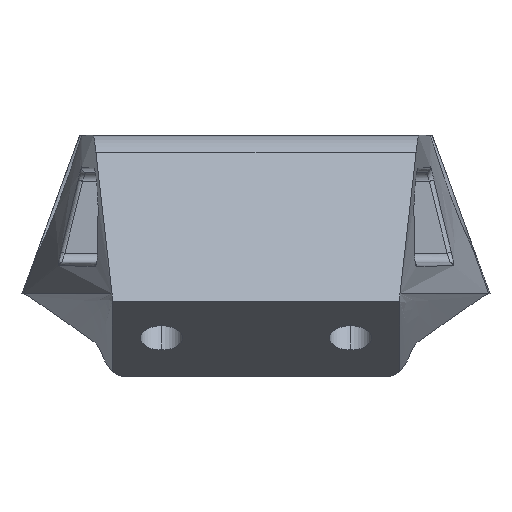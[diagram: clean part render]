
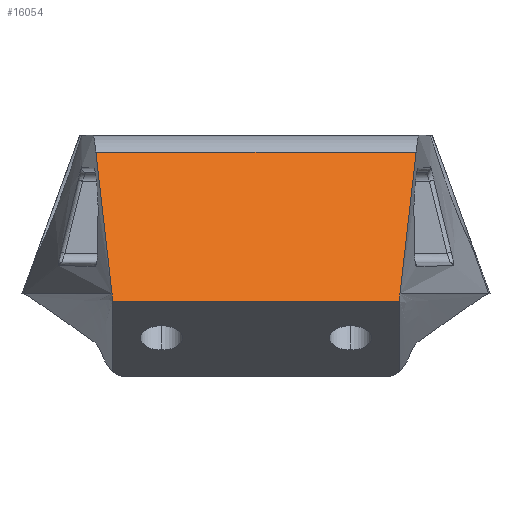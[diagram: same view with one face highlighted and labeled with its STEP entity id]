
A CAD part, front view. The second image highlights one B-rep face of the part: STEP entity #16054.
In plain terms, the highlighted planar face has unit normal (0, -0.845, 0.536).
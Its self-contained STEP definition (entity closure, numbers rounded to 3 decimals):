
#402 = CARTESIAN_POINT ( 'NONE',  ( -16., -94.621, -0.888 ) ) ;
#804 = VERTEX_POINT ( 'NONE', #3552 ) ;
#1042 = PLANE ( 'NONE',  #2711 ) ;
#1124 = CARTESIAN_POINT ( 'NONE',  ( -16., -94.621, -0.888 ) ) ;
#1223 = DIRECTION ( 'NONE',  ( 1., 0., 0. ) ) ;
#1367 = DIRECTION ( 'NONE',  ( 1., 0., 0. ) ) ;
#1891 = ORIENTED_EDGE ( 'NONE', *, *, #2204, .T. ) ;
#1961 = CARTESIAN_POINT ( 'NONE',  ( -16., -84.075, 15.742 ) ) ;
#2131 = LINE ( 'NONE', #1961, #6251 ) ;
#2142 = EDGE_CURVE ( 'NONE', #2901, #16293, #6168, .T. ) ;
#2204 = EDGE_CURVE ( 'NONE', #14626, #16293, #12143, .T. ) ;
#2518 = FACE_OUTER_BOUND ( 'NONE', #5659, .T. ) ;
#2711 = AXIS2_PLACEMENT_3D ( 'NONE', #10337, #4952, #1223 ) ;
#2901 = VERTEX_POINT ( 'NONE', #8268 ) ;
#3552 = CARTESIAN_POINT ( 'NONE',  ( 17.789, -84.075, 15.742 ) ) ;
#3730 = EDGE_CURVE ( 'NONE', #16459, #14626, #16471, .T. ) ;
#4131 = CARTESIAN_POINT ( 'NONE',  ( -16., -94.434, -0.592 ) ) ;
#4351 = CARTESIAN_POINT ( 'NONE',  ( -16., -94.058, 0. ) ) ;
#4684 = CARTESIAN_POINT ( 'NONE',  ( 17.789, -84.075, 15.742 ) ) ;
#4952 = DIRECTION ( 'NONE',  ( 0., -0.844, 0.536 ) ) ;
#5097 = CARTESIAN_POINT ( 'NONE',  ( 16., -94.434, -0.592 ) ) ;
#5659 = EDGE_LOOP ( 'NONE', ( #8166, #12514, #9893, #9601, #1891, #12325 ) ) ;
#6168 = B_SPLINE_CURVE_WITH_KNOTS ( 'NONE', 3,
 ( #14209, #9010, #5097, #6584 ),
 .UNSPECIFIED., .F., .F.,
 ( 4, 4 ),
 ( 0., 1. ),
 .UNSPECIFIED. ) ;
#6251 = VECTOR ( 'NONE', #7277, 1000. ) ;
#6575 = CARTESIAN_POINT ( 'NONE',  ( 16., -94.621, -0.888 ) ) ;
#6584 = CARTESIAN_POINT ( 'NONE',  ( 16., -94.621, -0.888 ) ) ;
#7038 = CARTESIAN_POINT ( 'NONE',  ( -16.596, -90.73, 5.247 ) ) ;
#7277 = DIRECTION ( 'NONE',  ( -1., 0., 0. ) ) ;
#7790 = VECTOR ( 'NONE', #1367, 1000. ) ;
#8166 = ORIENTED_EDGE ( 'NONE', *, *, #14840, .T. ) ;
#8268 = CARTESIAN_POINT ( 'NONE',  ( 16., -94.058, 0. ) ) ;
#9010 = CARTESIAN_POINT ( 'NONE',  ( 16., -94.246, -0.296 ) ) ;
#9429 = CARTESIAN_POINT ( 'NONE',  ( -16., -94.621, -0.888 ) ) ;
#9601 = ORIENTED_EDGE ( 'NONE', *, *, #3730, .T. ) ;
#9893 = ORIENTED_EDGE ( 'NONE', *, *, #14780, .F. ) ;
#10169 = VERTEX_POINT ( 'NONE', #14962 ) ;
#10337 = CARTESIAN_POINT ( 'NONE',  ( -16., -94.058, 0. ) ) ;
#11012 = B_SPLINE_CURVE_WITH_KNOTS ( 'NONE', 3,
 ( #11361, #16668, #16591, #4684 ),
 .UNSPECIFIED., .F., .F.,
 ( 4, 4 ),
 ( 0., 0.894 ),
 .UNSPECIFIED. ) ;
#11361 = CARTESIAN_POINT ( 'NONE',  ( 16., -94.058, 0. ) ) ;
#12132 = CARTESIAN_POINT ( 'NONE',  ( -16., -94.058, 0. ) ) ;
#12143 = LINE ( 'NONE', #402, #7790 ) ;
#12325 = ORIENTED_EDGE ( 'NONE', *, *, #2142, .F. ) ;
#12514 = ORIENTED_EDGE ( 'NONE', *, *, #15200, .T. ) ;
#12746 = CARTESIAN_POINT ( 'NONE',  ( -17.789, -84.075, 15.742 ) ) ;
#13070 = CARTESIAN_POINT ( 'NONE',  ( -16., -94.246, -0.296 ) ) ;
#14209 = CARTESIAN_POINT ( 'NONE',  ( 16., -94.058, 0. ) ) ;
#14626 = VERTEX_POINT ( 'NONE', #1124 ) ;
#14780 = EDGE_CURVE ( 'NONE', #16459, #10169, #14950, .T. ) ;
#14840 = EDGE_CURVE ( 'NONE', #2901, #804, #11012, .T. ) ;
#14950 = B_SPLINE_CURVE_WITH_KNOTS ( 'NONE', 3,
 ( #4351, #7038, #15522, #12746 ),
 .UNSPECIFIED., .F., .F.,
 ( 4, 4 ),
 ( 0., 0.894 ),
 .UNSPECIFIED. ) ;
#14962 = CARTESIAN_POINT ( 'NONE',  ( -17.789, -84.075, 15.742 ) ) ;
#15200 = EDGE_CURVE ( 'NONE', #804, #10169, #2131, .T. ) ;
#15522 = CARTESIAN_POINT ( 'NONE',  ( -17.193, -87.403, 10.495 ) ) ;
#16022 = CARTESIAN_POINT ( 'NONE',  ( -16., -94.058, 0. ) ) ;
#16054 = ADVANCED_FACE ( 'NONE', ( #2518 ), #1042, .T. ) ;
#16293 = VERTEX_POINT ( 'NONE', #6575 ) ;
#16459 = VERTEX_POINT ( 'NONE', #12132 ) ;
#16471 = B_SPLINE_CURVE_WITH_KNOTS ( 'NONE', 3,
 ( #16022, #13070, #4131, #9429 ),
 .UNSPECIFIED., .F., .F.,
 ( 4, 4 ),
 ( 0., 1. ),
 .UNSPECIFIED. ) ;
#16591 = CARTESIAN_POINT ( 'NONE',  ( 17.193, -87.403, 10.495 ) ) ;
#16668 = CARTESIAN_POINT ( 'NONE',  ( 16.596, -90.73, 5.247 ) ) ;
